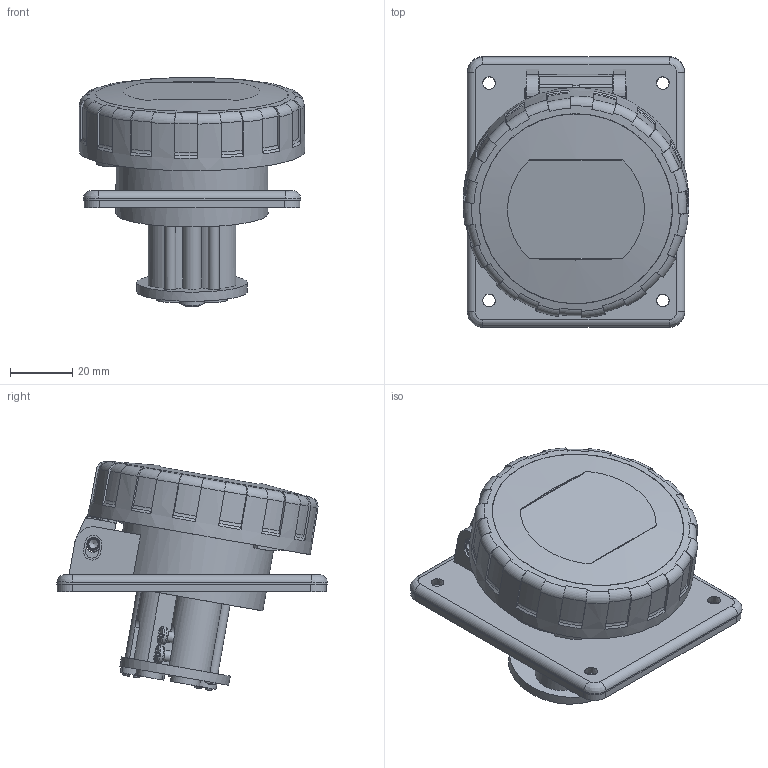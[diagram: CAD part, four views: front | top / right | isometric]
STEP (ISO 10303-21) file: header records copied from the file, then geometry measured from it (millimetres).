
FILE_DESCRIPTION(/* description */ (''),/* implementation_level */ '2;1');
FILE_NAME(/* name */ '4006086.stp',/* time_stamp */ '2020-01-13T08:07:20+01:00',/* author */ (''),/* organization */ (''),/* preprocessor_version */ 'ST-DEVELOPER v16.7',/* originating_system */ 'SIEMENS PLM Software NX 1892',/* authorisation */ '');
FILE_SCHEMA (('AUTOMOTIVE_DESIGN { 1 0 10303 214 3 1 1 1 }'));
Length unit declared in the file: millimetre
Products named in the file (1): BSOM78ECCED31aj2
Bounding box: 72.71 x 87.2 x 73.86 mm (x, y, z)
Volume: 92807 mm3; surface area: 74737.8 mm2
Topology: 14 solids, 14 shells, 1288 faces, 3297 edges, 2009 vertices
Faces by surface type: plane 441, cylinder 380, bspline 191, torus 145, cone 83, sphere 48
Full cylindrical faces by diameter (mm): 2.2 x2, 3 x2, 3.1 x2, 3.2 x4, 3.5 x11, 3.546 x2, 3.8 x3, 4 x5, 4.3 x2, 4.7 x2, 5.7 x2, 5.8 x4, 6 x2, 7 x2, 7.2 x1, 7.5 x2, 8 x2, 9.5 x2, 10 x2, 35.6 x1, 39.4 x1, 43.4 x1, 49 x2, 62.1 x1, 62.2 x1, 67 x1
Entity records: 49530 total; most frequent: CARTESIAN_POINT 19972, DIRECTION 6171, ORIENTED_EDGE 6100, EDGE_CURVE 3050, AXIS2_PLACEMENT_3D 2467, VERTEX_POINT 1939, EDGE_LOOP 1491, ADVANCED_FACE 1287
